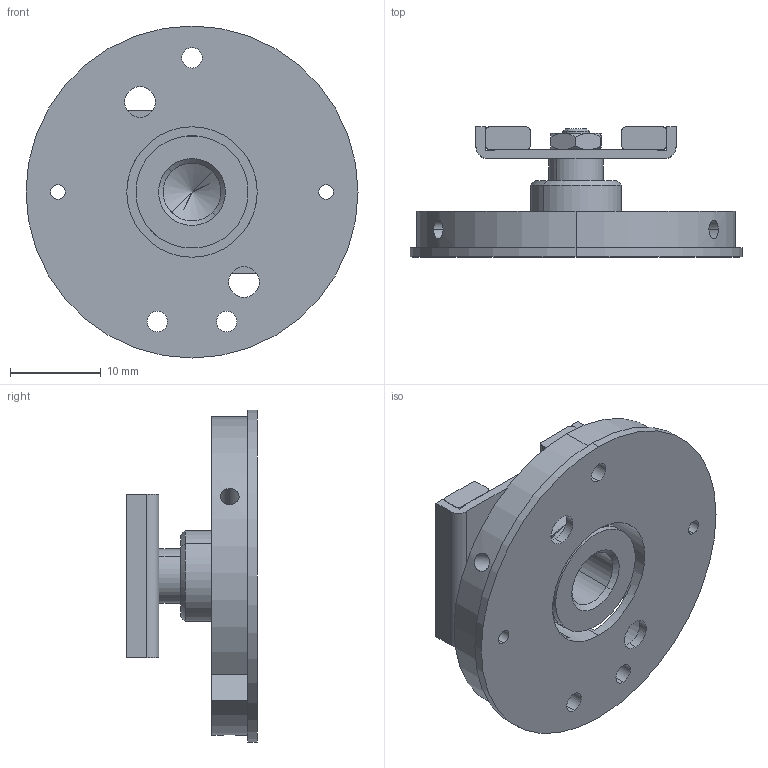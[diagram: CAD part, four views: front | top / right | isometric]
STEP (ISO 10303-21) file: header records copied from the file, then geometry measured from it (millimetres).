
FILE_DESCRIPTION (( 'STEP AP214' ), '1' );
FILE_NAME ('MA-Flange-KCD-E4R.STEP', '2020-11-02T08:58:19', ( '' ), ( '' ), 'SwSTEP 2.0', 'SolidWorks 2019', '' );
FILE_SCHEMA (( 'AUTOMOTIVE_DESIGN' ));
Length unit declared in the file: millimetre
Products named in the file (1): MA-Flange-KCD-E4R
Bounding box: 36.5 x 14.3 x 36.5 mm (x, y, z)
Volume: 4975.3 mm3; surface area: 5441.1 mm2
Topology: 8 solids, 8 shells, 252 faces, 628 edges, 390 vertices
Faces by surface type: cone 98, cylinder 82, plane 68, torus 4
Entity records: 10647 total; most frequent: CARTESIAN_POINT 1621, DIRECTION 1366, ORIENTED_EDGE 1232, EDGE_CURVE 616, AXIS2_PLACEMENT_3D 537, VERTEX_POINT 390, LINE 292, VECTOR 292
